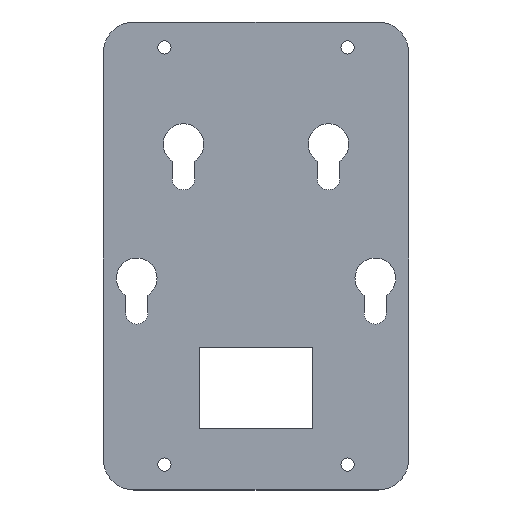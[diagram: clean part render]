
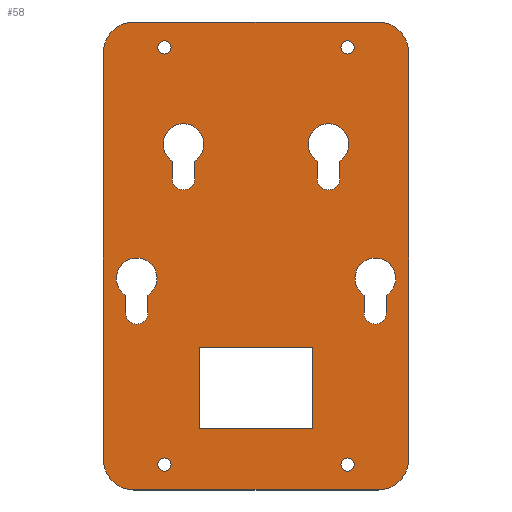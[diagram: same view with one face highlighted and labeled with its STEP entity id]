
A CAD part, top view. The second image highlights one B-rep face of the part: STEP entity #58.
In plain terms, the highlighted planar face has unit normal (0, 0, 1).
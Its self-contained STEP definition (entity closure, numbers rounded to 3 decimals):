
#58=ADVANCED_FACE('',(#143,#144,#145,#146,#147,#148,#149,#150,#151,#152),#153,.T.);
#143=FACE_BOUND('',#274,.T.);
#144=FACE_BOUND('',#275,.T.);
#145=FACE_BOUND('',#276,.T.);
#146=FACE_BOUND('',#277,.T.);
#147=FACE_BOUND('',#278,.T.);
#148=FACE_BOUND('',#279,.T.);
#149=FACE_BOUND('',#280,.T.);
#150=FACE_BOUND('',#281,.T.);
#151=FACE_BOUND('',#282,.T.);
#152=FACE_OUTER_BOUND('',#283,.T.);
#153=PLANE('',#284);
#274=EDGE_LOOP('',(#399,#400,#401,#402));
#275=EDGE_LOOP('',(#403,#404,#405,#406));
#276=EDGE_LOOP('',(#407,#408,#409,#410));
#277=EDGE_LOOP('',(#411,#412,#413,#414));
#278=EDGE_LOOP('',(#415,#416,#417,#418));
#279=EDGE_LOOP('',(#419));
#280=EDGE_LOOP('',(#420));
#281=EDGE_LOOP('',(#421));
#282=EDGE_LOOP('',(#422));
#283=EDGE_LOOP('',(#423,#424,#425,#426,#427,#428,#429,#430));
#284=AXIS2_PLACEMENT_3D('',#431,#432,#433);
#399=ORIENTED_EDGE('',*,*,#719,.F.);
#400=ORIENTED_EDGE('',*,*,#720,.F.);
#401=ORIENTED_EDGE('',*,*,#721,.F.);
#402=ORIENTED_EDGE('',*,*,#722,.F.);
#403=ORIENTED_EDGE('',*,*,#723,.F.);
#404=ORIENTED_EDGE('',*,*,#724,.F.);
#405=ORIENTED_EDGE('',*,*,#725,.F.);
#406=ORIENTED_EDGE('',*,*,#726,.F.);
#407=ORIENTED_EDGE('',*,*,#727,.F.);
#408=ORIENTED_EDGE('',*,*,#728,.F.);
#409=ORIENTED_EDGE('',*,*,#729,.F.);
#410=ORIENTED_EDGE('',*,*,#730,.F.);
#411=ORIENTED_EDGE('',*,*,#731,.F.);
#412=ORIENTED_EDGE('',*,*,#732,.F.);
#413=ORIENTED_EDGE('',*,*,#733,.F.);
#414=ORIENTED_EDGE('',*,*,#734,.F.);
#415=ORIENTED_EDGE('',*,*,#735,.F.);
#416=ORIENTED_EDGE('',*,*,#736,.F.);
#417=ORIENTED_EDGE('',*,*,#737,.F.);
#418=ORIENTED_EDGE('',*,*,#738,.F.);
#419=ORIENTED_EDGE('',*,*,#739,.F.);
#420=ORIENTED_EDGE('',*,*,#740,.F.);
#421=ORIENTED_EDGE('',*,*,#741,.F.);
#422=ORIENTED_EDGE('',*,*,#742,.F.);
#423=ORIENTED_EDGE('',*,*,#743,.T.);
#424=ORIENTED_EDGE('',*,*,#744,.T.);
#425=ORIENTED_EDGE('',*,*,#745,.T.);
#426=ORIENTED_EDGE('',*,*,#746,.T.);
#427=ORIENTED_EDGE('',*,*,#747,.T.);
#428=ORIENTED_EDGE('',*,*,#748,.T.);
#429=ORIENTED_EDGE('',*,*,#749,.T.);
#430=ORIENTED_EDGE('',*,*,#750,.T.);
#431=CARTESIAN_POINT('',(0.0,0.0,3.0));
#432=DIRECTION('',(0.0,0.0,1.0));
#433=DIRECTION('',(1.0,0.0,0.0));
#719=EDGE_CURVE('',#845,#846,#847,.T.);
#720=EDGE_CURVE('',#848,#845,#849,.T.);
#721=EDGE_CURVE('',#850,#848,#851,.T.);
#722=EDGE_CURVE('',#846,#850,#852,.T.);
#723=EDGE_CURVE('',#853,#854,#855,.T.);
#724=EDGE_CURVE('',#856,#853,#857,.T.);
#725=EDGE_CURVE('',#858,#856,#859,.T.);
#726=EDGE_CURVE('',#854,#858,#860,.T.);
#727=EDGE_CURVE('',#861,#862,#863,.T.);
#728=EDGE_CURVE('',#864,#861,#865,.T.);
#729=EDGE_CURVE('',#866,#864,#867,.T.);
#730=EDGE_CURVE('',#862,#866,#868,.T.);
#731=EDGE_CURVE('',#869,#870,#871,.T.);
#732=EDGE_CURVE('',#872,#869,#873,.T.);
#733=EDGE_CURVE('',#874,#872,#875,.T.);
#734=EDGE_CURVE('',#870,#874,#876,.T.);
#735=EDGE_CURVE('',#877,#878,#879,.T.);
#736=EDGE_CURVE('',#880,#877,#881,.T.);
#737=EDGE_CURVE('',#882,#880,#883,.T.);
#738=EDGE_CURVE('',#878,#882,#884,.T.);
#739=EDGE_CURVE('',#885,#885,#886,.T.);
#740=EDGE_CURVE('',#887,#887,#888,.T.);
#741=EDGE_CURVE('',#889,#889,#890,.T.);
#742=EDGE_CURVE('',#891,#891,#892,.T.);
#743=EDGE_CURVE('',#893,#894,#895,.T.);
#744=EDGE_CURVE('',#894,#896,#897,.T.);
#745=EDGE_CURVE('',#896,#898,#899,.T.);
#746=EDGE_CURVE('',#898,#900,#901,.T.);
#747=EDGE_CURVE('',#900,#902,#903,.T.);
#748=EDGE_CURVE('',#902,#904,#905,.T.);
#749=EDGE_CURVE('',#904,#906,#907,.T.);
#750=EDGE_CURVE('',#906,#893,#908,.T.);
#845=VERTEX_POINT('',#1035);
#846=VERTEX_POINT('',#1036);
#847=LINE('',#1037,#1038);
#848=VERTEX_POINT('',#1039);
#849=LINE('',#1040,#1041);
#850=VERTEX_POINT('',#1042);
#851=LINE('',#1043,#1044);
#852=LINE('',#1045,#1046);
#853=VERTEX_POINT('',#1047);
#854=VERTEX_POINT('',#1048);
#855=CIRCLE('',#1049,5.5);
#856=VERTEX_POINT('',#1050);
#857=LINE('',#1051,#1052);
#858=VERTEX_POINT('',#1053);
#859=CIRCLE('',#1054,10.0);
#860=LINE('',#1055,#1056);
#861=VERTEX_POINT('',#1057);
#862=VERTEX_POINT('',#1058);
#863=CIRCLE('',#1059,10.0);
#864=VERTEX_POINT('',#1060);
#865=LINE('',#1061,#1062);
#866=VERTEX_POINT('',#1063);
#867=CIRCLE('',#1064,5.5);
#868=LINE('',#1065,#1066);
#869=VERTEX_POINT('',#1067);
#870=VERTEX_POINT('',#1068);
#871=CIRCLE('',#1069,5.5);
#872=VERTEX_POINT('',#1070);
#873=LINE('',#1071,#1072);
#874=VERTEX_POINT('',#1073);
#875=CIRCLE('',#1074,10.0);
#876=LINE('',#1075,#1076);
#877=VERTEX_POINT('',#1077);
#878=VERTEX_POINT('',#1078);
#879=CIRCLE('',#1079,10.0);
#880=VERTEX_POINT('',#1080);
#881=LINE('',#1081,#1082);
#882=VERTEX_POINT('',#1083);
#883=CIRCLE('',#1084,5.5);
#884=LINE('',#1085,#1086);
#885=VERTEX_POINT('',#1087);
#886=CIRCLE('',#1088,3.25);
#887=VERTEX_POINT('',#1089);
#888=CIRCLE('',#1090,3.25);
#889=VERTEX_POINT('',#1091);
#890=CIRCLE('',#1092,3.25);
#891=VERTEX_POINT('',#1093);
#892=CIRCLE('',#1094,3.25);
#893=VERTEX_POINT('',#1095);
#894=VERTEX_POINT('',#1096);
#895=LINE('',#1097,#1098);
#896=VERTEX_POINT('',#1099);
#897=CIRCLE('',#1100,15.0);
#898=VERTEX_POINT('',#1101);
#899=LINE('',#1102,#1103);
#900=VERTEX_POINT('',#1104);
#901=CIRCLE('',#1105,15.0);
#902=VERTEX_POINT('',#1106);
#903=LINE('',#1107,#1108);
#904=VERTEX_POINT('',#1109);
#905=CIRCLE('',#1110,15.0);
#906=VERTEX_POINT('',#1111);
#907=LINE('',#1112,#1113);
#908=CIRCLE('',#1114,15.0);
#1035=CARTESIAN_POINT('',(-27.772,-85.0,3.));
#1036=CARTESIAN_POINT('',(27.772,-85.0,3.));
#1037=CARTESIAN_POINT('',(0.,-85.0,3.0));
#1038=VECTOR('',#1284,1.0);
#1039=CARTESIAN_POINT('',(-27.772,-45.0,3.0));
#1040=CARTESIAN_POINT('',(-27.772,0.,3.0));
#1041=VECTOR('',#1285,1.0);
#1042=CARTESIAN_POINT('',(27.772,-45.0,3.));
#1043=CARTESIAN_POINT('',(0.,-45.0,3.0));
#1044=VECTOR('',#1286,1.0);
#1045=CARTESIAN_POINT('',(27.772,0.,3.0));
#1046=VECTOR('',#1287,1.0);
#1047=CARTESIAN_POINT('',(-64.136,-28.0,3.0));
#1048=CARTESIAN_POINT('',(-53.136,-28.0,3.0));
#1049=AXIS2_PLACEMENT_3D('',#1288,#1289,#1290);
#1050=CARTESIAN_POINT('',(-64.136,-19.352,3.0));
#1051=CARTESIAN_POINT('',(-64.136,0.,3.0));
#1052=VECTOR('',#1291,1.0);
#1053=CARTESIAN_POINT('',(-53.136,-19.352,3.0));
#1054=AXIS2_PLACEMENT_3D('',#1292,#1293,#1294);
#1055=CARTESIAN_POINT('',(-53.136,0.,3.0));
#1056=VECTOR('',#1295,1.0);
#1057=CARTESIAN_POINT('',(64.136,-19.352,3.0));
#1058=CARTESIAN_POINT('',(53.136,-19.352,3.0));
#1059=AXIS2_PLACEMENT_3D('',#1296,#1297,#1298);
#1060=CARTESIAN_POINT('',(64.136,-28.0,3.0));
#1061=CARTESIAN_POINT('',(64.136,0.,3.0));
#1062=VECTOR('',#1299,1.0);
#1063=CARTESIAN_POINT('',(53.136,-28.0,3.0));
#1064=AXIS2_PLACEMENT_3D('',#1300,#1301,#1302);
#1065=CARTESIAN_POINT('',(53.136,0.,3.0));
#1066=VECTOR('',#1303,1.0);
#1067=CARTESIAN_POINT('',(-41.136,38.0,3.0));
#1068=CARTESIAN_POINT('',(-30.136,38.0,3.0));
#1069=AXIS2_PLACEMENT_3D('',#1304,#1305,#1306);
#1070=CARTESIAN_POINT('',(-41.136,46.648,3.0));
#1071=CARTESIAN_POINT('',(-41.136,0.,3.0));
#1072=VECTOR('',#1307,1.0);
#1073=CARTESIAN_POINT('',(-30.136,46.648,3.0));
#1074=AXIS2_PLACEMENT_3D('',#1308,#1309,#1310);
#1075=CARTESIAN_POINT('',(-30.136,0.,3.0));
#1076=VECTOR('',#1311,1.0);
#1077=CARTESIAN_POINT('',(41.136,46.648,3.0));
#1078=CARTESIAN_POINT('',(30.136,46.648,3.0));
#1079=AXIS2_PLACEMENT_3D('',#1312,#1313,#1314);
#1080=CARTESIAN_POINT('',(41.136,38.0,3.0));
#1081=CARTESIAN_POINT('',(41.136,0.,3.0));
#1082=VECTOR('',#1315,1.0);
#1083=CARTESIAN_POINT('',(30.136,38.0,3.0));
#1084=AXIS2_PLACEMENT_3D('',#1316,#1317,#1318);
#1085=CARTESIAN_POINT('',(30.136,0.,3.0));
#1086=VECTOR('',#1319,1.0);
#1087=CARTESIAN_POINT('',(-41.75,-102.5,3.0));
#1088=AXIS2_PLACEMENT_3D('',#1320,#1321,#1322);
#1089=CARTESIAN_POINT('',(48.25,-102.5,3.0));
#1090=AXIS2_PLACEMENT_3D('',#1323,#1324,#1325);
#1091=CARTESIAN_POINT('',(48.25,102.5,3.0));
#1092=AXIS2_PLACEMENT_3D('',#1326,#1327,#1328);
#1093=CARTESIAN_POINT('',(-41.75,102.5,3.0));
#1094=AXIS2_PLACEMENT_3D('',#1329,#1330,#1331);
#1095=CARTESIAN_POINT('',(-75.0,100.0,3.0));
#1096=CARTESIAN_POINT('',(-75.0,-100.0,3.0));
#1097=CARTESIAN_POINT('',(-75.0,0.0,3.0));
#1098=VECTOR('',#1332,1.0);
#1099=CARTESIAN_POINT('',(-60.0,-115.0,3.0));
#1100=AXIS2_PLACEMENT_3D('',#1333,#1334,#1335);
#1101=CARTESIAN_POINT('',(60.0,-115.0,3.0));
#1102=CARTESIAN_POINT('',(0.0,-115.0,3.0));
#1103=VECTOR('',#1336,1.0);
#1104=CARTESIAN_POINT('',(75.0,-100.0,3.0));
#1105=AXIS2_PLACEMENT_3D('',#1337,#1338,#1339);
#1106=CARTESIAN_POINT('',(75.0,100.0,3.0));
#1107=CARTESIAN_POINT('',(75.0,0.0,3.0));
#1108=VECTOR('',#1340,1.0);
#1109=CARTESIAN_POINT('',(60.0,115.0,3.0));
#1110=AXIS2_PLACEMENT_3D('',#1341,#1342,#1343);
#1111=CARTESIAN_POINT('',(-60.0,115.0,3.0));
#1112=CARTESIAN_POINT('',(0.0,115.0,3.0));
#1113=VECTOR('',#1344,1.0);
#1114=AXIS2_PLACEMENT_3D('',#1345,#1346,#1347);
#1284=DIRECTION('',(1.0,0.,0.0));
#1285=DIRECTION('',(0.,-1.0,0.0));
#1286=DIRECTION('',(-1.0,0.,0.0));
#1287=DIRECTION('',(0.,1.0,0.0));
#1288=CARTESIAN_POINT('',(-58.636,-28.0,3.0));
#1289=DIRECTION('',(0.0,0.0,1.0));
#1290=DIRECTION('',(1.0,0.0,0.0));
#1291=DIRECTION('',(0.,-1.0,0.0));
#1292=CARTESIAN_POINT('',(-58.636,-11.0,3.0));
#1293=DIRECTION('',(0.0,0.0,1.0));
#1294=DIRECTION('',(1.0,0.0,0.0));
#1295=DIRECTION('',(0.,1.0,0.0));
#1296=CARTESIAN_POINT('',(58.636,-11.0,3.0));
#1297=DIRECTION('',(0.0,0.0,1.0));
#1298=DIRECTION('',(1.0,0.0,0.0));
#1299=DIRECTION('',(0.,1.0,0.0));
#1300=CARTESIAN_POINT('',(58.636,-28.0,3.0));
#1301=DIRECTION('',(0.0,0.0,1.0));
#1302=DIRECTION('',(1.0,0.0,0.0));
#1303=DIRECTION('',(0.,-1.0,0.0));
#1304=CARTESIAN_POINT('',(-35.636,38.0,3.0));
#1305=DIRECTION('',(0.0,0.0,1.0));
#1306=DIRECTION('',(1.0,0.0,0.0));
#1307=DIRECTION('',(0.,-1.0,0.0));
#1308=CARTESIAN_POINT('',(-35.636,55.0,3.0));
#1309=DIRECTION('',(0.0,0.0,1.0));
#1310=DIRECTION('',(1.0,0.0,0.0));
#1311=DIRECTION('',(0.,1.0,0.0));
#1312=CARTESIAN_POINT('',(35.636,55.0,3.0));
#1313=DIRECTION('',(0.0,0.0,1.0));
#1314=DIRECTION('',(1.0,0.0,0.0));
#1315=DIRECTION('',(0.,1.0,0.0));
#1316=CARTESIAN_POINT('',(35.636,38.0,3.0));
#1317=DIRECTION('',(0.0,0.0,1.0));
#1318=DIRECTION('',(1.0,0.0,0.0));
#1319=DIRECTION('',(0.,-1.0,0.0));
#1320=CARTESIAN_POINT('',(-45.0,-102.5,3.0));
#1321=DIRECTION('',(0.0,0.0,1.0));
#1322=DIRECTION('',(1.0,0.0,0.0));
#1323=CARTESIAN_POINT('',(45.0,-102.5,3.0));
#1324=DIRECTION('',(0.0,0.0,1.0));
#1325=DIRECTION('',(1.0,0.0,0.0));
#1326=CARTESIAN_POINT('',(45.0,102.5,3.0));
#1327=DIRECTION('',(0.0,0.0,1.0));
#1328=DIRECTION('',(1.0,0.0,0.0));
#1329=CARTESIAN_POINT('',(-45.0,102.5,3.0));
#1330=DIRECTION('',(0.0,0.0,1.0));
#1331=DIRECTION('',(1.0,0.0,0.0));
#1332=DIRECTION('',(0.,-1.0,0.0));
#1333=CARTESIAN_POINT('',(-60.0,-100.0,3.0));
#1334=DIRECTION('',(0.0,0.0,1.0));
#1335=DIRECTION('',(1.0,0.0,0.0));
#1336=DIRECTION('',(1.0,0.0,0.0));
#1337=CARTESIAN_POINT('',(60.0,-100.0,3.0));
#1338=DIRECTION('',(0.0,0.0,1.0));
#1339=DIRECTION('',(1.0,0.0,0.0));
#1340=DIRECTION('',(0.,1.0,0.0));
#1341=CARTESIAN_POINT('',(60.0,100.0,3.0));
#1342=DIRECTION('',(0.0,0.0,1.0));
#1343=DIRECTION('',(1.0,0.0,0.0));
#1344=DIRECTION('',(-1.0,0.,0.0));
#1345=CARTESIAN_POINT('',(-60.0,100.0,3.0));
#1346=DIRECTION('',(0.0,0.0,1.0));
#1347=DIRECTION('',(1.0,0.0,0.0));
